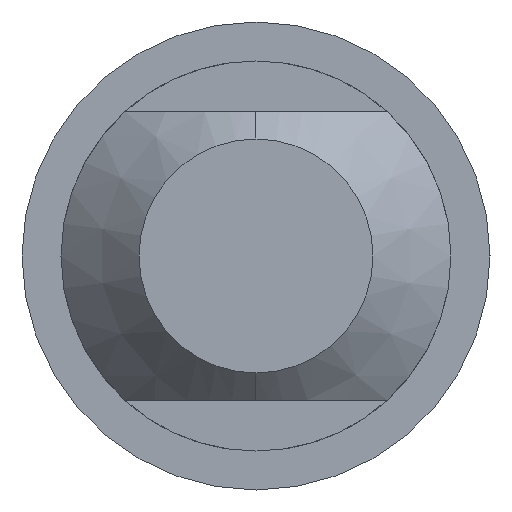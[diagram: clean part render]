
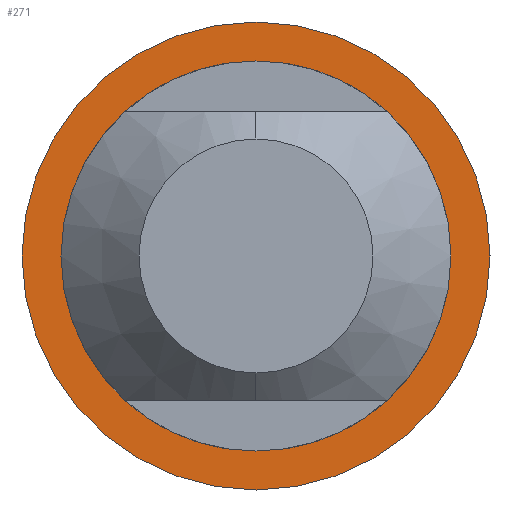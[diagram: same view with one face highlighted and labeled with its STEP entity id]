
A CAD part, left-side view. The second image highlights one B-rep face of the part: STEP entity #271.
In plain terms, the highlighted planar face has unit normal (-1, 0, 0).
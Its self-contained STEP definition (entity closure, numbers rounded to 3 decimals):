
#13 = AXIS2_PLACEMENT_3D ( 'NONE', #492, #406, #294 ) ;
#62 = EDGE_LOOP ( 'NONE', ( #1073, #1025 ) ) ;
#65 = CARTESIAN_POINT ( 'NONE',  ( -9.5, 0., 0. ) ) ;
#112 = ORIENTED_EDGE ( 'NONE', *, *, #501, .F. ) ;
#126 = VERTEX_POINT ( 'NONE', #515 ) ;
#200 = DIRECTION ( 'NONE',  ( 0., 0., 1. ) ) ;
#271 = ADVANCED_FACE ( 'NONE', ( #844, #475 ), #1147, .T. ) ;
#274 = AXIS2_PLACEMENT_3D ( 'NONE', #957, #968, #200 ) ;
#292 = CARTESIAN_POINT ( 'NONE',  ( -9.5, 0., 12.5 ) ) ;
#294 = DIRECTION ( 'NONE',  ( 0., 0., -1. ) ) ;
#305 = DIRECTION ( 'NONE',  ( 0., 0., -1. ) ) ;
#311 = VERTEX_POINT ( 'NONE', #292 ) ;
#312 = CARTESIAN_POINT ( 'NONE',  ( -9.5, 0., 0. ) ) ;
#322 = CIRCLE ( 'NONE', #533, 12.5 ) ;
#405 = ORIENTED_EDGE ( 'NONE', *, *, #1228, .F. ) ;
#406 = DIRECTION ( 'NONE',  ( 1., 0., 0. ) ) ;
#449 = DIRECTION ( 'NONE',  ( 1., 0., 0. ) ) ;
#460 = AXIS2_PLACEMENT_3D ( 'NONE', #730, #1233, #1117 ) ;
#475 = FACE_OUTER_BOUND ( 'NONE', #1051, .T. ) ;
#492 = CARTESIAN_POINT ( 'NONE',  ( -9.5, 0., 0. ) ) ;
#501 = EDGE_CURVE ( 'NONE', #1122, #126, #920, .T. ) ;
#515 = CARTESIAN_POINT ( 'NONE',  ( -9.5, 0., -15. ) ) ;
#533 = AXIS2_PLACEMENT_3D ( 'NONE', #65, #449, #642 ) ;
#597 = AXIS2_PLACEMENT_3D ( 'NONE', #312, #987, #305 ) ;
#642 = DIRECTION ( 'NONE',  ( 0., 0., -1. ) ) ;
#730 = CARTESIAN_POINT ( 'NONE',  ( -9.5, 0., 0. ) ) ;
#844 = FACE_BOUND ( 'NONE', #62, .T. ) ;
#871 = CARTESIAN_POINT ( 'NONE',  ( -9.5, 0., 15. ) ) ;
#892 = CARTESIAN_POINT ( 'NONE',  ( -9.5, 0., -12.5 ) ) ;
#920 = CIRCLE ( 'NONE', #13, 15. ) ;
#957 = CARTESIAN_POINT ( 'NONE',  ( -9.5, 15., 0. ) ) ;
#968 = DIRECTION ( 'NONE',  ( -1., 0., 0. ) ) ;
#987 = DIRECTION ( 'NONE',  ( 1., 0., 0. ) ) ;
#1025 = ORIENTED_EDGE ( 'NONE', *, *, #1132, .T. ) ;
#1051 = EDGE_LOOP ( 'NONE', ( #405, #112 ) ) ;
#1073 = ORIENTED_EDGE ( 'NONE', *, *, #1236, .T. ) ;
#1117 = DIRECTION ( 'NONE',  ( 0., 0., -1. ) ) ;
#1122 = VERTEX_POINT ( 'NONE', #871 ) ;
#1132 = EDGE_CURVE ( 'NONE', #311, #1173, #1243, .T. ) ;
#1145 = CIRCLE ( 'NONE', #460, 15. ) ;
#1147 = PLANE ( 'NONE',  #274 ) ;
#1173 = VERTEX_POINT ( 'NONE', #892 ) ;
#1228 = EDGE_CURVE ( 'NONE', #126, #1122, #1145, .T. ) ;
#1233 = DIRECTION ( 'NONE',  ( 1., 0., 0. ) ) ;
#1236 = EDGE_CURVE ( 'NONE', #1173, #311, #322, .T. ) ;
#1243 = CIRCLE ( 'NONE', #597, 12.5 ) ;
